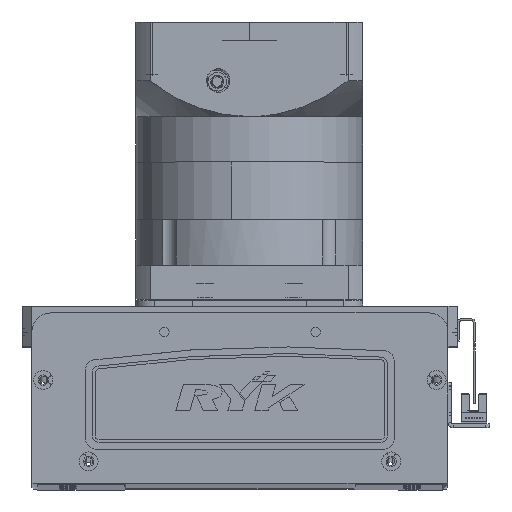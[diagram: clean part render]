
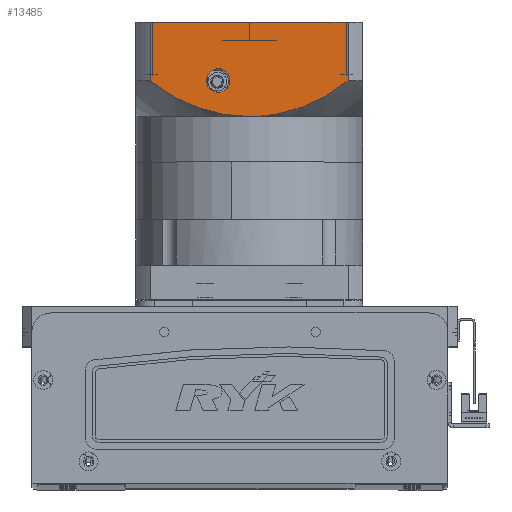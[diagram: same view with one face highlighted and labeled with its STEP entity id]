
A CAD part, top view. The second image highlights one B-rep face of the part: STEP entity #13485.
In plain terms, the highlighted planar face has unit normal (0, 0, 1) as drawn and (0, -1, 0) by its records, which use the part's own axes.
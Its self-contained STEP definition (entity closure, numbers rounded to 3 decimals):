
#947 = CARTESIAN_POINT ( 'NONE',  ( 16.5, -60., -125.75 ) ) ;
#1878 = CARTESIAN_POINT ( 'NONE',  ( 16.5, -60., -113.25 ) ) ;
#2872 = DIRECTION ( 'NONE',  ( 0., 1., 0. ) ) ;
#2934 = CARTESIAN_POINT ( 'NONE',  ( -44.656, -60., -113.73 ) ) ;
#3247 = CARTESIAN_POINT ( 'NONE',  ( 16.5, -60., -119.5 ) ) ;
#3568 = CARTESIAN_POINT ( 'NONE',  ( -12.993, -60., -101.537 ) ) ;
#4538 = CARTESIAN_POINT ( 'NONE',  ( -60., -60., -150.5 ) ) ;
#5346 = EDGE_CURVE ( 'NONE', #40055, #37721, #38087, .T. ) ;
#5386 = PLANE ( 'NONE',  #57334 ) ;
#5532 = CARTESIAN_POINT ( 'NONE',  ( 32.196, -60., -107.007 ) ) ;
#6574 = LINE ( 'NONE', #26108, #8116 ) ;
#8116 = VECTOR ( 'NONE', #55934, 1000. ) ;
#8123 = CARTESIAN_POINT ( 'NONE',  ( -38.51, -60., -110.207 ) ) ;
#8224 = DIRECTION ( 'NONE',  ( 0., 0., -1. ) ) ;
#9226 = CARTESIAN_POINT ( 'NONE',  ( 0., -60., -100.5 ) ) ;
#10309 = CARTESIAN_POINT ( 'NONE',  ( 52.156, -60., -119.5 ) ) ;
#10523 = CARTESIAN_POINT ( 'NONE',  ( 44.553, -60., -113.817 ) ) ;
#12078 = VERTEX_POINT ( 'NONE', #947 ) ;
#12179 = ORIENTED_EDGE ( 'NONE', *, *, #61669, .T. ) ;
#12514 = AXIS2_PLACEMENT_3D ( 'NONE', #3247, #37981, #8224 ) ;
#13094 = CARTESIAN_POINT ( 'NONE',  ( -18.792, -60., -102.562 ) ) ;
#13485 = ADVANCED_FACE ( 'NONE', ( #40189, #57301 ), #5386, .T. ) ;
#13747 = B_SPLINE_CURVE_WITH_KNOTS ( 'NONE', 3,
 ( #63081, #18503, #2934, #57250, #8123, #27428, #38318, #22640, #47679, #42908, #13094, #3568, #38094, #62205, #32468, #47899, #62867, #48550 ),
 .UNSPECIFIED., .F., .F.,
 ( 4, 2, 2, 2, 2, 2, 2, 2, 4 ),
 ( 0., 0.014, 0.018, 0.021, 0.028, 0.042, 0.046, 0.05, 0.057 ),
 .UNSPECIFIED. ) ;
#14838 = CARTESIAN_POINT ( 'NONE',  ( 25.577, -60., -104.596 ) ) ;
#14890 = CARTESIAN_POINT ( 'NONE',  ( -52.156, -60., -119.5 ) ) ;
#16199 = LINE ( 'NONE', #32785, #54335 ) ;
#16939 = CIRCLE ( 'NONE', #12514, 6.25 ) ;
#18503 = CARTESIAN_POINT ( 'NONE',  ( -48.52, -60., -116.438 ) ) ;
#20025 = CARTESIAN_POINT ( 'NONE',  ( 15.267, -60., -101.938 ) ) ;
#22640 = CARTESIAN_POINT ( 'NONE',  ( -32.118, -60., -107.084 ) ) ;
#24465 = DIRECTION ( 'NONE',  ( 0., -1., 0. ) ) ;
#25442 = CARTESIAN_POINT ( 'NONE',  ( 19.894, -60., -102.964 ) ) ;
#26108 = CARTESIAN_POINT ( 'NONE',  ( -60., -60., -150.5 ) ) ;
#26423 = EDGE_LOOP ( 'NONE', ( #52926, #33834, #12179, #48163, #59000 ) ) ;
#27206 = CARTESIAN_POINT ( 'NONE',  ( 9.454, -60., -100.914 ) ) ;
#27428 = CARTESIAN_POINT ( 'NONE',  ( -36.409, -60., -109.113 ) ) ;
#27578 = VERTEX_POINT ( 'NONE', #53378 ) ;
#30634 = CARTESIAN_POINT ( 'NONE',  ( 52.156, -60., -119.5 ) ) ;
#32468 = CARTESIAN_POINT ( 'NONE',  ( -8.294, -60., -100.916 ) ) ;
#32785 = CARTESIAN_POINT ( 'NONE',  ( -52.156, -60., -97.5 ) ) ;
#33834 = ORIENTED_EDGE ( 'NONE', *, *, #37340, .T. ) ;
#34673 = CARTESIAN_POINT ( 'NONE',  ( 50.338, -60., -117.969 ) ) ;
#35940 = EDGE_CURVE ( 'NONE', #12078, #56477, #39992, .T. ) ;
#36763 = DIRECTION ( 'NONE',  ( 0., 0., -1. ) ) ;
#37340 = EDGE_CURVE ( 'NONE', #59914, #27578, #6574, .T. ) ;
#37721 = VERTEX_POINT ( 'NONE', #30634 ) ;
#37981 = DIRECTION ( 'NONE',  ( 0., 1., 0. ) ) ;
#38087 = B_SPLINE_CURVE_WITH_KNOTS ( 'NONE', 3,
 ( #51673, #39461, #27206, #20025, #54639, #49877, #25442, #40284, #14838, #5532, #49450, #59825, #59616, #10523, #49660, #50082, #34673, #10309 ),
 .UNSPECIFIED., .F., .F.,
 ( 4, 2, 2, 2, 2, 2, 2, 2, 4 ),
 ( 0., 0.014, 0.018, 0.021, 0.028, 0.042, 0.046, 0.05, 0.057 ),
 .UNSPECIFIED. ) ;
#38094 = CARTESIAN_POINT ( 'NONE',  ( -11.825, -60., -101.356 ) ) ;
#38318 = CARTESIAN_POINT ( 'NONE',  ( -35.342, -60., -108.587 ) ) ;
#39461 = CARTESIAN_POINT ( 'NONE',  ( 4.753, -60., -100.5 ) ) ;
#39992 = CIRCLE ( 'NONE', #45346, 6.25 ) ;
#40055 = VERTEX_POINT ( 'NONE', #9226 ) ;
#40149 = DIRECTION ( 'NONE',  ( 1., 0., 0. ) ) ;
#40189 = FACE_OUTER_BOUND ( 'NONE', #26423, .T. ) ;
#40284 = CARTESIAN_POINT ( 'NONE',  ( 23.329, -60., -103.886 ) ) ;
#42908 = CARTESIAN_POINT ( 'NONE',  ( -23.319, -60., -103.777 ) ) ;
#45346 = AXIS2_PLACEMENT_3D ( 'NONE', #57401, #2872, #36763 ) ;
#46551 = VECTOR ( 'NONE', #48434, 1000. ) ;
#46652 = EDGE_CURVE ( 'NONE', #59914, #57684, #16199, .T. ) ;
#46666 = EDGE_CURVE ( 'NONE', #56477, #12078, #16939, .T. ) ;
#47570 = DIRECTION ( 'NONE',  ( 0., 0., 1. ) ) ;
#47679 = CARTESIAN_POINT ( 'NONE',  ( -29.939, -60., -106.183 ) ) ;
#47899 = CARTESIAN_POINT ( 'NONE',  ( -4.747, -60., -100.604 ) ) ;
#48163 = ORIENTED_EDGE ( 'NONE', *, *, #5346, .F. ) ;
#48434 = DIRECTION ( 'NONE',  ( 0., 0., 1. ) ) ;
#48550 = CARTESIAN_POINT ( 'NONE',  ( 0., -60., -100.5 ) ) ;
#49163 = EDGE_LOOP ( 'NONE', ( #58714, #61682 ) ) ;
#49450 = CARTESIAN_POINT ( 'NONE',  ( 36.444, -60., -108.986 ) ) ;
#49660 = CARTESIAN_POINT ( 'NONE',  ( 45.542, -60., -114.478 ) ) ;
#49877 = CARTESIAN_POINT ( 'NONE',  ( 18.739, -60., -102.681 ) ) ;
#49908 = EDGE_CURVE ( 'NONE', #57684, #40055, #13747, .T. ) ;
#50082 = CARTESIAN_POINT ( 'NONE',  ( 48.457, -60., -116.522 ) ) ;
#51673 = CARTESIAN_POINT ( 'NONE',  ( 0., -60., -100.5 ) ) ;
#52926 = ORIENTED_EDGE ( 'NONE', *, *, #46652, .F. ) ;
#53378 = CARTESIAN_POINT ( 'NONE',  ( 52.156, -60., -150.5 ) ) ;
#53840 = CARTESIAN_POINT ( 'NONE',  ( 52.156, -60., -150.5 ) ) ;
#54335 = VECTOR ( 'NONE', #47570, 1000. ) ;
#54639 = CARTESIAN_POINT ( 'NONE',  ( 16.426, -60., -102.169 ) ) ;
#55934 = DIRECTION ( 'NONE',  ( 1., 0., 0. ) ) ;
#56477 = VERTEX_POINT ( 'NONE', #1878 ) ;
#57250 = CARTESIAN_POINT ( 'NONE',  ( -39.546, -60., -110.776 ) ) ;
#57301 = FACE_BOUND ( 'NONE', #49163, .T. ) ;
#57334 = AXIS2_PLACEMENT_3D ( 'NONE', #4538, #24465, #40149 ) ;
#57401 = CARTESIAN_POINT ( 'NONE',  ( 16.5, -60., -119.5 ) ) ;
#57684 = VERTEX_POINT ( 'NONE', #14890 ) ;
#58714 = ORIENTED_EDGE ( 'NONE', *, *, #35940, .T. ) ;
#58954 = LINE ( 'NONE', #53840, #46551 ) ;
#59000 = ORIENTED_EDGE ( 'NONE', *, *, #49908, .F. ) ;
#59616 = CARTESIAN_POINT ( 'NONE',  ( 42.555, -60., -112.543 ) ) ;
#59825 = CARTESIAN_POINT ( 'NONE',  ( 41.545, -60., -111.931 ) ) ;
#59914 = VERTEX_POINT ( 'NONE', #63209 ) ;
#61669 = EDGE_CURVE ( 'NONE', #27578, #37721, #58954, .T. ) ;
#61682 = ORIENTED_EDGE ( 'NONE', *, *, #46666, .T. ) ;
#62205 = CARTESIAN_POINT ( 'NONE',  ( -9.477, -60., -101.046 ) ) ;
#62867 = CARTESIAN_POINT ( 'NONE',  ( -2.376, -60., -100.5 ) ) ;
#63081 = CARTESIAN_POINT ( 'NONE',  ( -52.156, -60., -119.5 ) ) ;
#63209 = CARTESIAN_POINT ( 'NONE',  ( -52.156, -60., -150.5 ) ) ;
